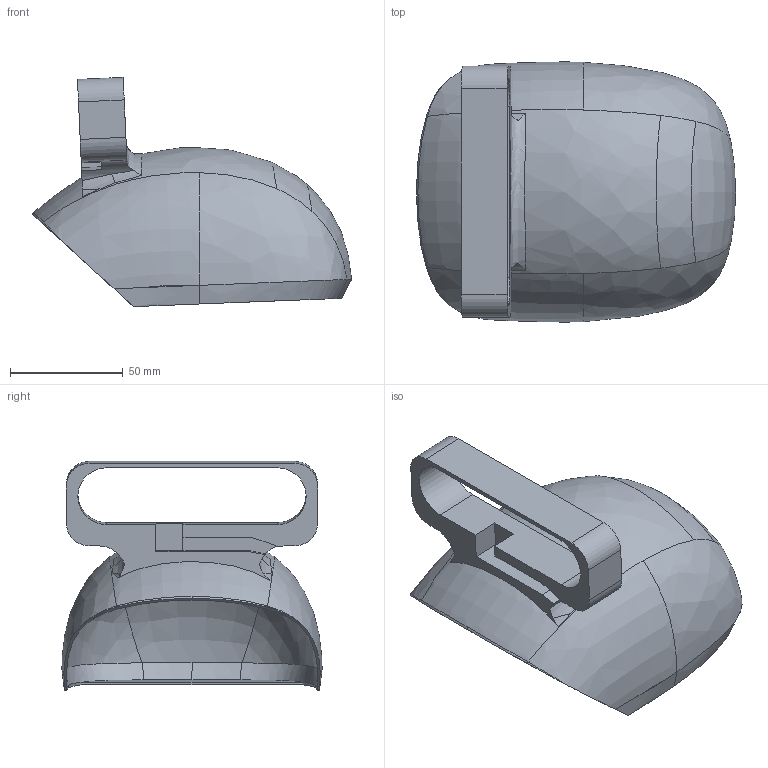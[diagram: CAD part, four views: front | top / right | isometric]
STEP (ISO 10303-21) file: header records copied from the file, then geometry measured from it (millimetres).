
FILE_DESCRIPTION((''),'2;1');
FILE_NAME('5000','2025-08-29T19:06:50',('15058'),(''),'CREO PARAMETRIC BY PTC INC, 2024063','CREO PARAMETRIC BY PTC INC, 2024063','');
FILE_SCHEMA(('CONFIG_CONTROL_DESIGN'));
Length unit declared in the file: millimetre
Products named in the file (1): 5000
Bounding box: 141.56 x 115.39 x 101.7 mm (x, y, z)
Volume: 70283.2 mm3; surface area: 70990.2 mm2
Topology: 1 solids, 1 shells, 103 faces, 294 edges, 192 vertices
Faces by surface type: bspline 61, plane 21, extrusion 13, cylinder 8
Entity records: 8342 total; most frequent: CARTESIAN_POINT 6194, ORIENTED_EDGE 588, EDGE_CURVE 294, B_SPLINE_CURVE_WITH_KNOTS 213, DIRECTION 192, VERTEX_POINT 192, EDGE_LOOP 104, FACE_OUTER_BOUND 103
